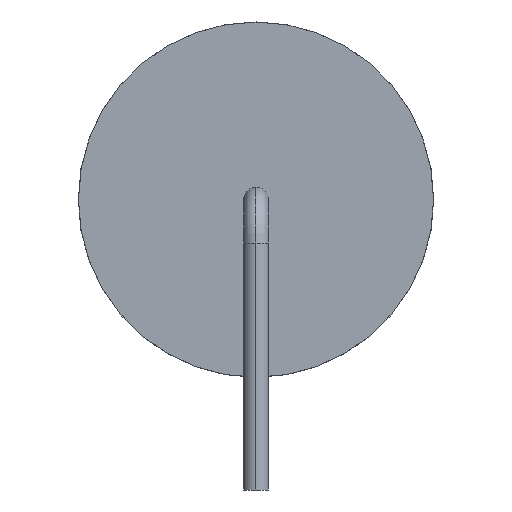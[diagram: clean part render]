
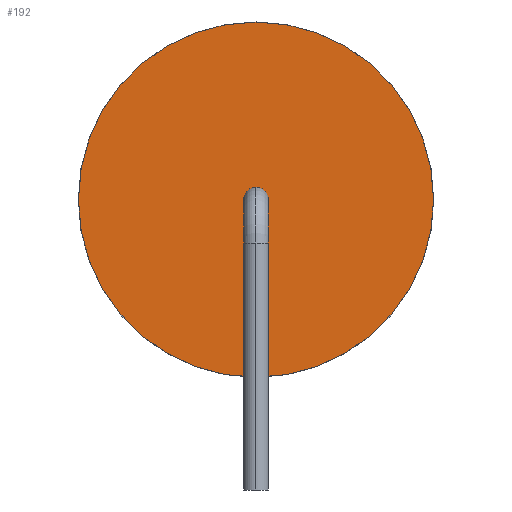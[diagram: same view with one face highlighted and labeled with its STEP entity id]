
A CAD part, left-side view. The second image highlights one B-rep face of the part: STEP entity #192.
In plain terms, the highlighted planar face has unit normal (-1, 0, 0).
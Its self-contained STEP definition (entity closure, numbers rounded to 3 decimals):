
#192=ADVANCED_FACE($,(#198),#194,.T.);
#194=PLANE($,#219);
#198=FACE_OUTER_BOUND($,#202,.T.);
#202=EDGE_LOOP($,(#212));
#203=CIRCLE($,#216,4.001);
#205=VERTEX_POINT('',#234);
#207=EDGE_CURVE($,#205,#205,#203,.T.);
#212=ORIENTED_EDGE($,*,*,#207,.T.);
#216=AXIS2_PLACEMENT_3D($,#235,#224,#225);
#219=AXIS2_PLACEMENT_3D($,#239,#230,#231);
#224=DIRECTION('',(-1.,0.,0.));
#225=DIRECTION('',(0.,0.,1.));
#230=DIRECTION('',(-1.,0.,0.));
#231=DIRECTION('',(0.,1.,0.));
#234=CARTESIAN_POINT('',(5.003,0.0,0.0));
#235=CARTESIAN_POINT('',(5.003,0.0,4.0));
#239=CARTESIAN_POINT('',(5.003,0.0,4.0));
